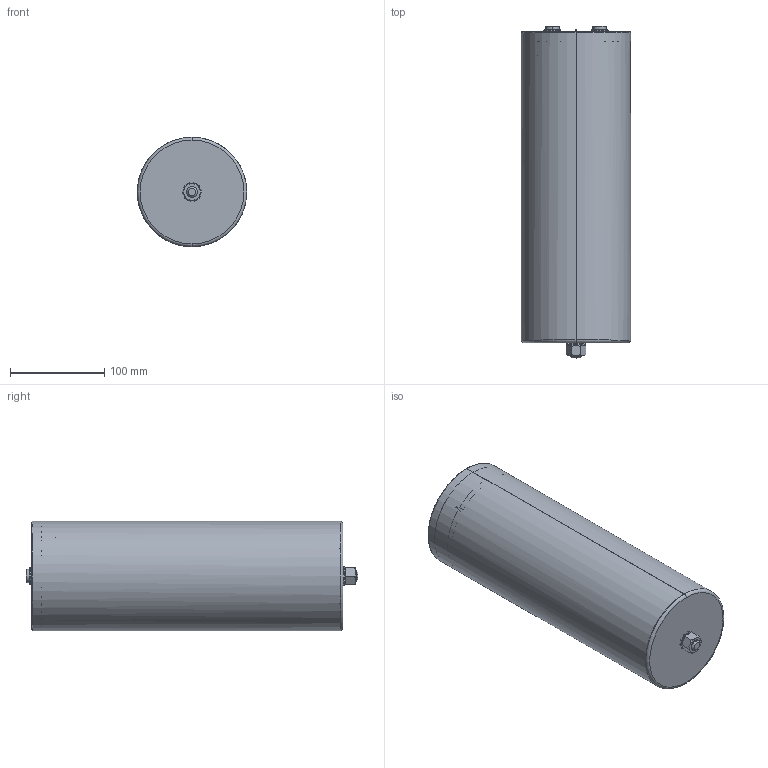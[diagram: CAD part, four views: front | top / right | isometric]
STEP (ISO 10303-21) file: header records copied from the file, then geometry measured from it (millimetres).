
FILE_DESCRIPTION (( 'STEP AP214' ), '1' );
FILE_NAME ('B25695 Series D116 Hc330 Ht336.STEP', '2024-06-04T08:43:25', ( '' ), ( '' ), 'SwSTEP 2.0', 'SolidWorks 2019', '' );
FILE_SCHEMA (( 'AUTOMOTIVE_DESIGN' ));
Length unit declared in the file: millimetre
Products named in the file (1): B25695 Series D116 Hc330 Ht336
Bounding box: 116 x 352 x 116 mm (x, y, z)
Volume: 193421.2 mm3; surface area: 300183.4 mm2
Topology: 1 solids, 2 shells, 371 faces, 1009 edges, 645 vertices
Faces by surface type: plane 137, cylinder 124, cone 50, bspline 40, torus 16, sphere 4
Entity records: 12572 total; most frequent: CARTESIAN_POINT 3598, ORIENTED_EDGE 2002, DIRECTION 1734, EDGE_CURVE 1001, AXIS2_PLACEMENT_3D 647, VERTEX_POINT 645, VECTOR 440, LINE 440
